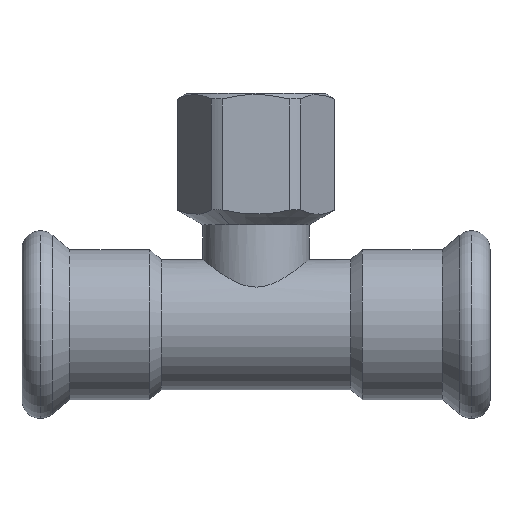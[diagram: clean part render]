
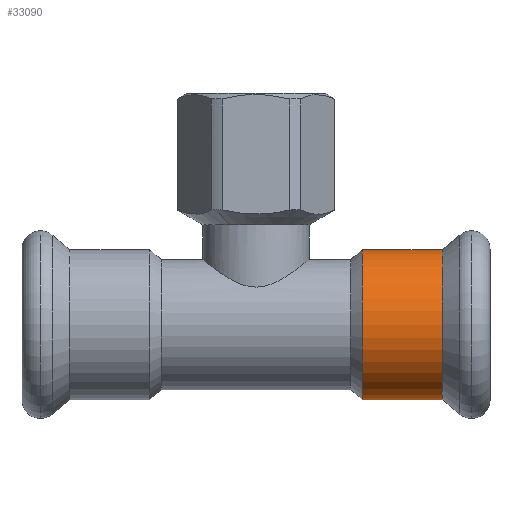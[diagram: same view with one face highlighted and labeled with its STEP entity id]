
A CAD part, top view. The second image highlights one B-rep face of the part: STEP entity #33090.
In plain terms, the highlighted cylindrical face has radius 12.65 mm (diameter 25.3 mm), a partial arc.
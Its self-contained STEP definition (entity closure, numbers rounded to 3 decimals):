
#1380=CARTESIAN_POINT('',(-306.641,56.893,0.));
#1390=VERTEX_POINT('',#1380);
#1570=CARTESIAN_POINT('',(-331.941,56.893,
0.));
#1580=VERTEX_POINT('',#1570);
#1610=CARTESIAN_POINT('',(-319.291,56.893,0.));
#1620=DIRECTION('',(0.,1.,0.));
#1630=DIRECTION('',(-1.,0.,0.));
#1640=AXIS2_PLACEMENT_3D('',#1610,#1620,#1630);
#1650=CIRCLE('',#1640,12.65);
#1710=CARTESIAN_POINT('',(-319.291,50.141,0.));
#1720=DIRECTION('',(0.,-1.,0.));
#1730=DIRECTION('',(-1.,0.,0.));
#1740=AXIS2_PLACEMENT_3D('',#1710,#1720,#1730);
#1750=CYLINDRICAL_SURFACE('',#1740,12.65);
#1760=CARTESIAN_POINT('',(-306.641,50.141,
0.));
#1770=DIRECTION('',(0.,-1.,0.));
#1780=VECTOR('',#1770,1.);
#1790=LINE('',#1760,#1780);
#1800=CARTESIAN_POINT('',(-306.641,43.401,
0.));
#1810=VERTEX_POINT('',#1800);
#1820=EDGE_CURVE('',#1390,#1810,#1790,.T.);
#1850=CARTESIAN_POINT('',(-331.941,50.141,0.));
#1860=DIRECTION('',(0.,-1.,0.));
#1870=VECTOR('',#1860,1.);
#1880=LINE('',#1850,#1870);
#1890=CARTESIAN_POINT('',(-331.941,43.401,0.));
#1900=VERTEX_POINT('',#1890);
#1910=EDGE_CURVE('',#1580,#1900,#1880,.T.);
#1930=CARTESIAN_POINT('',(-319.291,43.401,0.));
#1940=DIRECTION('',(0.,1.,0.));
#1950=DIRECTION('',(-1.,0.,0.));
#1960=AXIS2_PLACEMENT_3D('',#1930,#1940,#1950);
#1970=CIRCLE('',#1960,12.65);
#32360=EDGE_CURVE('',#1580,#1390,#1650,.T.);
#33020=ORIENTED_EDGE('',*,*,#32360,.F.);
#33030=ORIENTED_EDGE('',*,*,#1820,.F.);
#33040=EDGE_CURVE('',#1900,#1810,#1970,.T.);
#33050=ORIENTED_EDGE('',*,*,#33040,.T.);
#33060=ORIENTED_EDGE('',*,*,#1910,.T.);
#33070=EDGE_LOOP('',(#33060,#33050,#33030,#33020));
#33080=FACE_OUTER_BOUND('',#33070,.T.);
#33090=ADVANCED_FACE('',(#33080),#1750,.T.);
